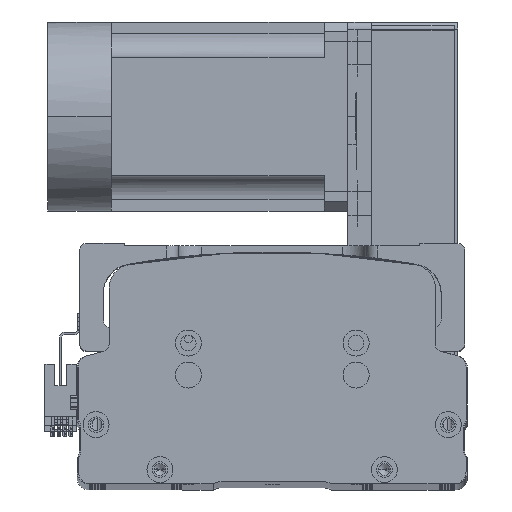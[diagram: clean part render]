
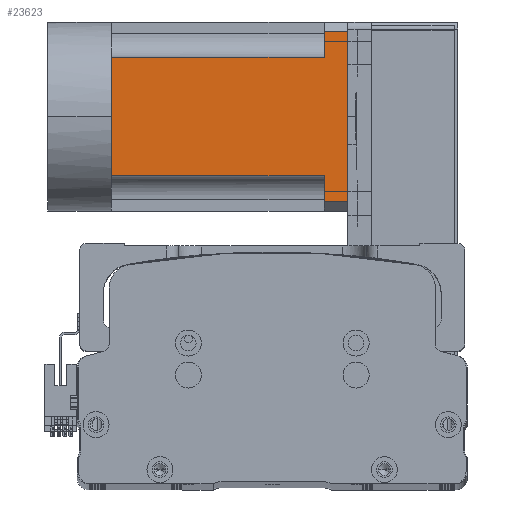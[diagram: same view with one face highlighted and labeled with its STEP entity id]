
A CAD part, top view. The second image highlights one B-rep face of the part: STEP entity #23623.
In plain terms, the highlighted planar face has unit normal (0, 0, 1) as drawn and (0, 0, -1) by its records, which use the part's own axes.
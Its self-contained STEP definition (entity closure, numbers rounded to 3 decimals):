
#850 = EDGE_CURVE ( 'NONE', #20827, #12425, #39755, .T. ) ;
#1475 = EDGE_CURVE ( 'NONE', #28142, #5240, #23965, .T. ) ;
#2629 = ORIENTED_EDGE ( 'NONE', *, *, #850, .F. ) ;
#3255 = EDGE_CURVE ( 'NONE', #5240, #45229, #36605, .T. ) ;
#4282 = DIRECTION ( 'NONE',  ( 0., -1., 0. ) ) ;
#5240 = VERTEX_POINT ( 'NONE', #46926 ) ;
#5758 = CARTESIAN_POINT ( 'NONE',  ( 0., 0., -40. ) ) ;
#8224 = VECTOR ( 'NONE', #51525, 1000. ) ;
#9651 = CARTESIAN_POINT ( 'NONE',  ( -36., 100., -40. ) ) ;
#11414 = VERTEX_POINT ( 'NONE', #14121 ) ;
#11502 = LINE ( 'NONE', #46282, #8224 ) ;
#11562 = VECTOR ( 'NONE', #35006, 1000. ) ;
#11879 = EDGE_CURVE ( 'NONE', #20827, #55956, #66225, .T. ) ;
#12425 = VERTEX_POINT ( 'NONE', #9651 ) ;
#12596 = LINE ( 'NONE', #42904, #15855 ) ;
#13161 = CARTESIAN_POINT ( 'NONE',  ( 36., 90., -40. ) ) ;
#14121 = CARTESIAN_POINT ( 'NONE',  ( 25., 0., -40. ) ) ;
#15855 = VECTOR ( 'NONE', #32307, 1000. ) ;
#18674 = CARTESIAN_POINT ( 'NONE',  ( 25., 90., -40. ) ) ;
#18959 = EDGE_CURVE ( 'NONE', #41372, #11414, #46115, .T. ) ;
#19369 = CARTESIAN_POINT ( 'NONE',  ( -40., 0., -40. ) ) ;
#20827 = VERTEX_POINT ( 'NONE', #55485 ) ;
#21644 = ORIENTED_EDGE ( 'NONE', *, *, #43758, .T. ) ;
#22081 = LINE ( 'NONE', #50606, #11562 ) ;
#23180 = DIRECTION ( 'NONE',  ( -1., 0., 0. ) ) ;
#23623 = ADVANCED_FACE ( 'NONE', ( #62963 ), #33337, .T. ) ;
#23965 = LINE ( 'NONE', #19369, #60362 ) ;
#24694 = EDGE_CURVE ( 'NONE', #45229, #31872, #12596, .T. ) ;
#24915 = ORIENTED_EDGE ( 'NONE', *, *, #11879, .T. ) ;
#28142 = VERTEX_POINT ( 'NONE', #5758 ) ;
#28897 = CARTESIAN_POINT ( 'NONE',  ( -40., 0., -40. ) ) ;
#31064 = CARTESIAN_POINT ( 'NONE',  ( -40., 100., -40. ) ) ;
#31872 = VERTEX_POINT ( 'NONE', #64446 ) ;
#32307 = DIRECTION ( 'NONE',  ( -1., 0., 0. ) ) ;
#33337 = PLANE ( 'NONE',  #42624 ) ;
#33450 = EDGE_LOOP ( 'NONE', ( #2629, #24915, #47103, #43193, #21644, #60493, #33677, #46571, #64491 ) ) ;
#33677 = ORIENTED_EDGE ( 'NONE', *, *, #3255, .T. ) ;
#34961 = VECTOR ( 'NONE', #51372, 1000. ) ;
#35006 = DIRECTION ( 'NONE',  ( 0., 1., 0. ) ) ;
#36605 = LINE ( 'NONE', #66721, #34961 ) ;
#37921 = VECTOR ( 'NONE', #65069, 1000. ) ;
#38863 = CARTESIAN_POINT ( 'NONE',  ( -25., 90., -40. ) ) ;
#39755 = LINE ( 'NONE', #31064, #65646 ) ;
#41372 = VERTEX_POINT ( 'NONE', #18674 ) ;
#42624 = AXIS2_PLACEMENT_3D ( 'NONE', #43714, #54180, #23180 ) ;
#42874 = VECTOR ( 'NONE', #60706, 1000. ) ;
#42904 = CARTESIAN_POINT ( 'NONE',  ( -40., 90., -40. ) ) ;
#43193 = ORIENTED_EDGE ( 'NONE', *, *, #18959, .T. ) ;
#43714 = CARTESIAN_POINT ( 'NONE',  ( -40., -27., -40. ) ) ;
#43758 = EDGE_CURVE ( 'NONE', #11414, #28142, #65445, .T. ) ;
#45229 = VERTEX_POINT ( 'NONE', #38863 ) ;
#45459 = CARTESIAN_POINT ( 'NONE',  ( 36., -27., -40. ) ) ;
#46115 = LINE ( 'NONE', #55518, #42874 ) ;
#46282 = CARTESIAN_POINT ( 'NONE',  ( -40., 90., -40. ) ) ;
#46571 = ORIENTED_EDGE ( 'NONE', *, *, #24694, .T. ) ;
#46926 = CARTESIAN_POINT ( 'NONE',  ( -25., 0., -40. ) ) ;
#47103 = ORIENTED_EDGE ( 'NONE', *, *, #61235, .T. ) ;
#49507 = EDGE_CURVE ( 'NONE', #31872, #12425, #22081, .T. ) ;
#50606 = CARTESIAN_POINT ( 'NONE',  ( -36., -27., -40. ) ) ;
#51372 = DIRECTION ( 'NONE',  ( 0., 1., 0. ) ) ;
#51525 = DIRECTION ( 'NONE',  ( -1., 0., 0. ) ) ;
#52526 = VECTOR ( 'NONE', #4282, 1000. ) ;
#54180 = DIRECTION ( 'NONE',  ( 0., 0., -1. ) ) ;
#55485 = CARTESIAN_POINT ( 'NONE',  ( 36., 100., -40. ) ) ;
#55518 = CARTESIAN_POINT ( 'NONE',  ( 25., -27., -40. ) ) ;
#55956 = VERTEX_POINT ( 'NONE', #13161 ) ;
#56886 = DIRECTION ( 'NONE',  ( -1., 0., 0. ) ) ;
#60362 = VECTOR ( 'NONE', #60726, 1000. ) ;
#60493 = ORIENTED_EDGE ( 'NONE', *, *, #1475, .T. ) ;
#60706 = DIRECTION ( 'NONE',  ( 0., -1., 0. ) ) ;
#60726 = DIRECTION ( 'NONE',  ( -1., 0., 0. ) ) ;
#61235 = EDGE_CURVE ( 'NONE', #55956, #41372, #11502, .T. ) ;
#62963 = FACE_OUTER_BOUND ( 'NONE', #33450, .T. ) ;
#64446 = CARTESIAN_POINT ( 'NONE',  ( -36., 90., -40. ) ) ;
#64491 = ORIENTED_EDGE ( 'NONE', *, *, #49507, .T. ) ;
#65069 = DIRECTION ( 'NONE',  ( -1., 0., 0. ) ) ;
#65445 = LINE ( 'NONE', #28897, #37921 ) ;
#65646 = VECTOR ( 'NONE', #56886, 1000. ) ;
#66225 = LINE ( 'NONE', #45459, #52526 ) ;
#66721 = CARTESIAN_POINT ( 'NONE',  ( -25., -27., -40. ) ) ;
